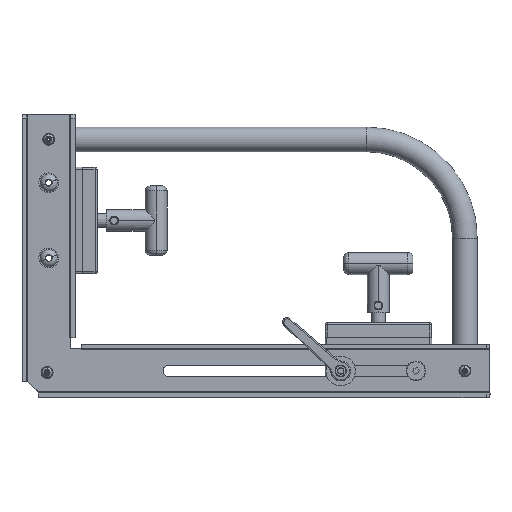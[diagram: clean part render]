
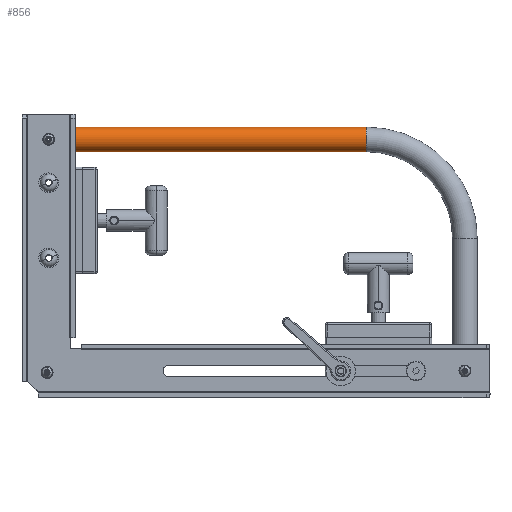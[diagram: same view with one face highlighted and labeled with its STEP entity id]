
A CAD part, top view. The second image highlights one B-rep face of the part: STEP entity #856.
In plain terms, the highlighted cylindrical face has radius 12.5 mm (diameter 25 mm), a partial arc.
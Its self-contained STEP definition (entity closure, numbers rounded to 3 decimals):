
#856 = ADVANCED_FACE ( 'NONE', ( #13230 ), #13234, .T. ) ;
#1254 = CIRCLE ( 'NONE', #22979, 12.5 ) ;
#1284 = LINE ( 'NONE', #34759, #1302 ) ;
#1302 = VECTOR ( 'NONE', #34760, 1000. ) ;
#1941 = CIRCLE ( 'NONE', #22038, 12.5 ) ;
#1948 = LINE ( 'NONE', #9629, #1959 ) ;
#1959 = VECTOR ( 'NONE', #9630, 1000. ) ;
#2709 = ORIENTED_EDGE ( 'NONE', *, *, #25569, .F. ) ;
#2710 = ORIENTED_EDGE ( 'NONE', *, *, #26110, .T. ) ;
#2711 = ORIENTED_EDGE ( 'NONE', *, *, #26093, .T. ) ;
#2712 = ORIENTED_EDGE ( 'NONE', *, *, #25609, .F. ) ;
#9576 = CARTESIAN_POINT ( 'NONE',  ( 348.6, 261.6, -36.1 ) ) ;
#9578 = DIRECTION ( 'NONE',  ( -1., 0., 0. ) ) ;
#9579 = DIRECTION ( 'NONE',  ( 0., -1., 0. ) ) ;
#9629 = CARTESIAN_POINT ( 'NONE',  ( 35., 249.1, -36.1 ) ) ;
#9630 = DIRECTION ( 'NONE',  ( 1., 0., 0. ) ) ;
#13230 = FACE_OUTER_BOUND ( 'NONE', #25447, .T. ) ;
#13234 = CYLINDRICAL_SURFACE ( 'NONE', #18584, 12.5 ) ;
#13748 = CARTESIAN_POINT ( 'NONE',  ( 348.6, 249.1, -36.1 ) ) ;
#14069 = CARTESIAN_POINT ( 'NONE',  ( 348.6, 274.1, -36.1 ) ) ;
#14081 = CARTESIAN_POINT ( 'NONE',  ( 35., 249.1, -36.1 ) ) ;
#14345 = CARTESIAN_POINT ( 'NONE',  ( 35., 274.1, -36.1 ) ) ;
#15419 = VERTEX_POINT ( 'NONE', #14081 ) ;
#15421 = VERTEX_POINT ( 'NONE', #14069 ) ;
#15424 = VERTEX_POINT ( 'NONE', #13748 ) ;
#15452 = VERTEX_POINT ( 'NONE', #14345 ) ;
#18584 = AXIS2_PLACEMENT_3D ( 'NONE', #28023, #28025, #28021 ) ;
#22038 = AXIS2_PLACEMENT_3D ( 'NONE', #9576, #9578, #9579 ) ;
#22979 = AXIS2_PLACEMENT_3D ( 'NONE', #34643, #34644, #34645 ) ;
#25447 = EDGE_LOOP ( 'NONE', ( #2709, #2710, #2711, #2712 ) ) ;
#25569 = EDGE_CURVE ( 'NONE', #15419, #15452, #1254, .T. ) ;
#25609 = EDGE_CURVE ( 'NONE', #15452, #15421, #1284, .T. ) ;
#26093 = EDGE_CURVE ( 'NONE', #15424, #15421, #1941, .T. ) ;
#26110 = EDGE_CURVE ( 'NONE', #15419, #15424, #1948, .T. ) ;
#28021 = DIRECTION ( 'NONE',  ( 0., 1., 0. ) ) ;
#28023 = CARTESIAN_POINT ( 'NONE',  ( 35., 261.6, -36.1 ) ) ;
#28025 = DIRECTION ( 'NONE',  ( 1., 0., 0. ) ) ;
#34643 = CARTESIAN_POINT ( 'NONE',  ( 35., 261.6, -36.1 ) ) ;
#34644 = DIRECTION ( 'NONE',  ( -1., 0., 0. ) ) ;
#34645 = DIRECTION ( 'NONE',  ( 0., -1., 0. ) ) ;
#34759 = CARTESIAN_POINT ( 'NONE',  ( 35., 274.1, -36.1 ) ) ;
#34760 = DIRECTION ( 'NONE',  ( 1., 0., 0. ) ) ;
